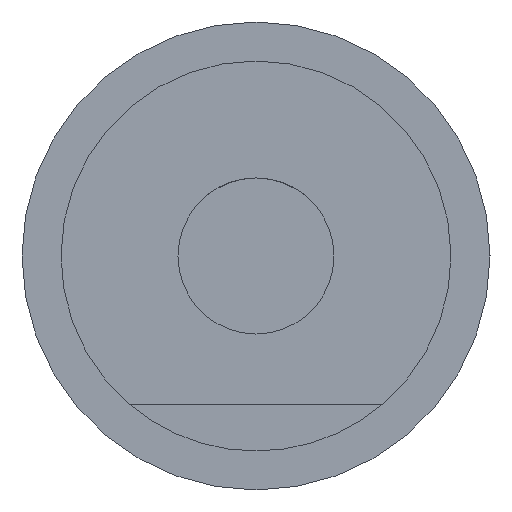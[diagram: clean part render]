
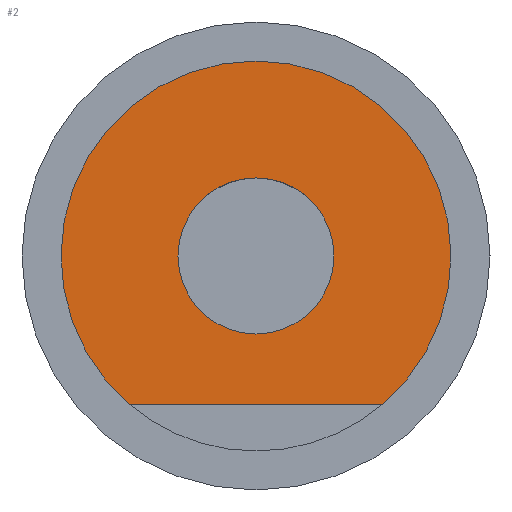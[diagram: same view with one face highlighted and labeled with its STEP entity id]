
A CAD part, left-side view. The second image highlights one B-rep face of the part: STEP entity #2.
In plain terms, the highlighted planar face has unit normal (-1, 0, 0) as drawn and (0, -1, 0) by its records, which use the part's own axes.
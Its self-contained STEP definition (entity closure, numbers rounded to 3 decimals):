
#2 = ADVANCED_FACE ( 'NONE', ( #236, #238 ), #237, .F. ) ;
#3 = EDGE_LOOP ( 'NONE', ( #4, #6 ) ) ;
#4 = ORIENTED_EDGE ( 'NONE', *, *, #5, .T. ) ;
#5 = EDGE_CURVE ( 'NONE', #158, #165, #268, .T. ) ;
#6 = ORIENTED_EDGE ( 'NONE', *, *, #164, .T. ) ;
#7 = EDGE_LOOP ( 'NONE', ( #8, #10 ) ) ;
#8 = ORIENTED_EDGE ( 'NONE', *, *, #9, .T. ) ;
#9 = EDGE_CURVE ( 'NONE', #97, #91, #263, .T. ) ;
#10 = ORIENTED_EDGE ( 'NONE', *, *, #30, .F. ) ;
#30 = EDGE_CURVE ( 'NONE', #97, #91, #198, .T. ) ;
#91 = VERTEX_POINT ( 'NONE', #408 ) ;
#97 = VERTEX_POINT ( 'NONE', #397 ) ;
#158 = VERTEX_POINT ( 'NONE', #339 ) ;
#164 = EDGE_CURVE ( 'NONE', #165, #158, #379, .T. ) ;
#165 = VERTEX_POINT ( 'NONE', #374 ) ;
#196 = DIRECTION ( 'NONE',  ( 0., 1., 0. ) ) ;
#198 = CIRCLE ( 'NONE', #205, 1.25 ) ;
#202 = CARTESIAN_POINT ( 'NONE',  ( 0., 0., 0. ) ) ;
#204 = DIRECTION ( 'NONE',  ( 0., 0., 1. ) ) ;
#205 = AXIS2_PLACEMENT_3D ( 'NONE', #202, #196, #204 ) ;
#236 = FACE_BOUND ( 'NONE', #3, .T. ) ;
#237 = PLANE ( 'NONE',  #272 ) ;
#238 = FACE_OUTER_BOUND ( 'NONE', #7, .T. ) ;
#260 = DIRECTION ( 'NONE',  ( 1., 0., 0. ) ) ;
#261 = VECTOR ( 'NONE', #260, 1000. ) ;
#262 = CARTESIAN_POINT ( 'NONE',  ( -0.812, 0., -0.95 ) ) ;
#263 = LINE ( 'NONE', #262, #261 ) ;
#264 = DIRECTION ( 'NONE',  ( 0., 0., 1. ) ) ;
#265 = DIRECTION ( 'NONE',  ( 0., 1., 0. ) ) ;
#266 = CARTESIAN_POINT ( 'NONE',  ( 0., 0., 0. ) ) ;
#267 = AXIS2_PLACEMENT_3D ( 'NONE', #266, #265, #264 ) ;
#268 = CIRCLE ( 'NONE', #267, 0.5 ) ;
#269 = DIRECTION ( 'NONE',  ( 0., 0., 1. ) ) ;
#270 = DIRECTION ( 'NONE',  ( 0., 1., 0. ) ) ;
#271 = CARTESIAN_POINT ( 'NONE',  ( 0., 0., 0. ) ) ;
#272 = AXIS2_PLACEMENT_3D ( 'NONE', #271, #270, #269 ) ;
#339 = CARTESIAN_POINT ( 'NONE',  ( 0., 0., -0.5 ) ) ;
#374 = CARTESIAN_POINT ( 'NONE',  ( 0., 0., 0.5 ) ) ;
#375 = DIRECTION ( 'NONE',  ( 0., 0., 1. ) ) ;
#376 = DIRECTION ( 'NONE',  ( 0., 1., 0. ) ) ;
#377 = CARTESIAN_POINT ( 'NONE',  ( 0., 0., 0. ) ) ;
#378 = AXIS2_PLACEMENT_3D ( 'NONE', #377, #376, #375 ) ;
#379 = CIRCLE ( 'NONE', #378, 0.5 ) ;
#397 = CARTESIAN_POINT ( 'NONE',  ( -0.812, 0., -0.95 ) ) ;
#408 = CARTESIAN_POINT ( 'NONE',  ( 0.812, 0., -0.95 ) ) ;
